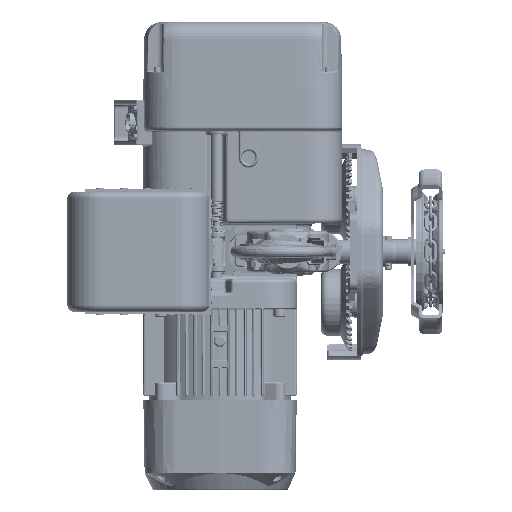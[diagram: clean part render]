
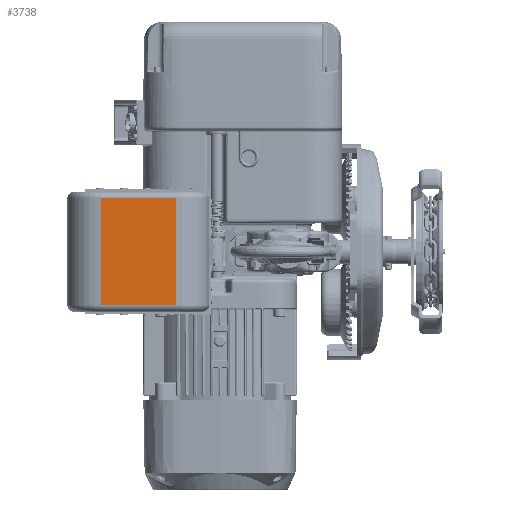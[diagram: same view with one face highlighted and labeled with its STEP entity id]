
A CAD part, front view. The second image highlights one B-rep face of the part: STEP entity #3738.
In plain terms, the highlighted planar face has unit normal (0.004, -1, 0) as drawn and (0, -1, 0) by its records, which use the part's own axes.
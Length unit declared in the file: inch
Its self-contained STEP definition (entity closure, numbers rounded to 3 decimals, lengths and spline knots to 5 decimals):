
#3738 = ADVANCED_FACE ( 'NONE', ( #65439 ), #310837, .F. ) ;
#8097 = VECTOR ( 'NONE', #89073, 39.37008 ) ;
#9554 = CARTESIAN_POINT ( 'NONE',  ( 1.5748, -15.86614, -3.14961 ) ) ;
#12303 = CARTESIAN_POINT ( 'NONE',  ( 1.5748, -15.86614, -3.14961 ) ) ;
#14658 = CARTESIAN_POINT ( 'NONE',  ( -2.84473, -15.86614, 3.14961 ) ) ;
#22964 = EDGE_CURVE ( 'NONE', #46352, #242281, #101278, .T. ) ;
#44537 = VERTEX_POINT ( 'NONE', #137935 ) ;
#46352 = VERTEX_POINT ( 'NONE', #301309 ) ;
#50791 = DIRECTION ( 'NONE',  ( 0., 0., -1. ) ) ;
#65439 = FACE_OUTER_BOUND ( 'NONE', #229701, .T. ) ;
#79674 = EDGE_CURVE ( 'NONE', #46352, #309695, #93066, .T. ) ;
#80974 = CARTESIAN_POINT ( 'NONE',  ( -2.84473, -15.86614, 3.14961 ) ) ;
#81643 = ORIENTED_EDGE ( 'NONE', *, *, #22964, .F. ) ;
#89073 = DIRECTION ( 'NONE',  ( 1., 0., 0. ) ) ;
#93066 = LINE ( 'NONE', #14658, #199998 ) ;
#99814 = LINE ( 'NONE', #227333, #315756 ) ;
#101278 = LINE ( 'NONE', #299230, #158022 ) ;
#117566 = ORIENTED_EDGE ( 'NONE', *, *, #196728, .T. ) ;
#137935 = CARTESIAN_POINT ( 'NONE',  ( -2.84473, -15.86614, -3.14961 ) ) ;
#138087 = LINE ( 'NONE', #12303, #8097 ) ;
#143735 = DIRECTION ( 'NONE',  ( -1., 0., 0. ) ) ;
#151018 = AXIS2_PLACEMENT_3D ( 'NONE', #315642, #162038, #168507 ) ;
#158022 = VECTOR ( 'NONE', #204338, 39.37008 ) ;
#162038 = DIRECTION ( 'NONE',  ( 0., 1., 0. ) ) ;
#168507 = DIRECTION ( 'NONE',  ( 0., 0., 1. ) ) ;
#196728 = EDGE_CURVE ( 'NONE', #309695, #44537, #99814, .T. ) ;
#198853 = EDGE_CURVE ( 'NONE', #44537, #242281, #138087, .T. ) ;
#199998 = VECTOR ( 'NONE', #143735, 39.37008 ) ;
#204338 = DIRECTION ( 'NONE',  ( 0., 0., -1. ) ) ;
#227333 = CARTESIAN_POINT ( 'NONE',  ( -2.84473, -15.86614, 20.33697 ) ) ;
#229701 = EDGE_LOOP ( 'NONE', ( #81643, #237627, #117566, #246475 ) ) ;
#237627 = ORIENTED_EDGE ( 'NONE', *, *, #79674, .T. ) ;
#242281 = VERTEX_POINT ( 'NONE', #9554 ) ;
#246475 = ORIENTED_EDGE ( 'NONE', *, *, #198853, .T. ) ;
#299230 = CARTESIAN_POINT ( 'NONE',  ( 1.5748, -15.86614, 20.33697 ) ) ;
#301309 = CARTESIAN_POINT ( 'NONE',  ( 1.5748, -15.86614, 3.14961 ) ) ;
#309695 = VERTEX_POINT ( 'NONE', #80974 ) ;
#310837 = PLANE ( 'NONE',  #151018 ) ;
#315642 = CARTESIAN_POINT ( 'NONE',  ( 1.5748, -15.86614, 20.33697 ) ) ;
#315756 = VECTOR ( 'NONE', #50791, 39.37008 ) ;
